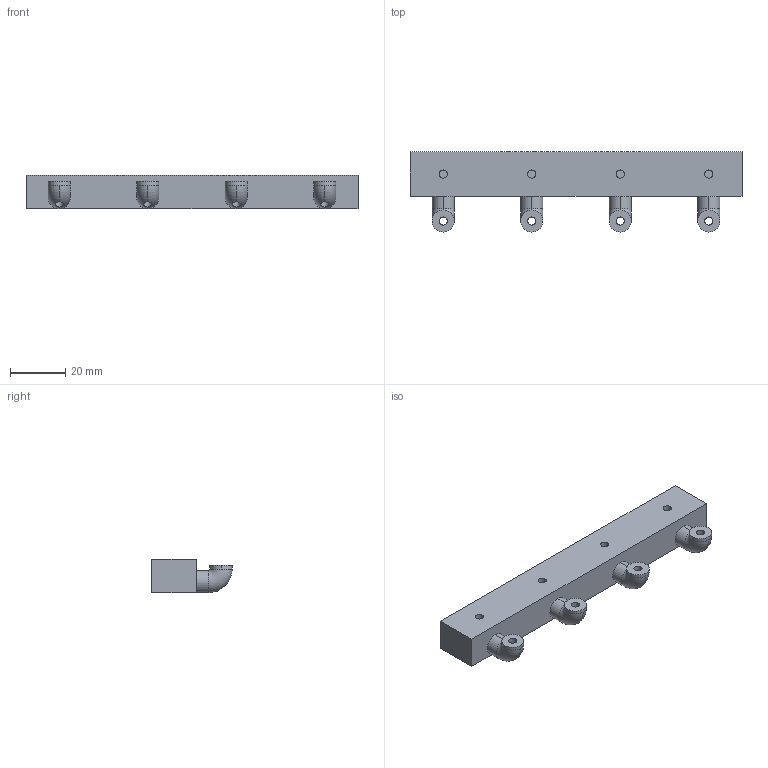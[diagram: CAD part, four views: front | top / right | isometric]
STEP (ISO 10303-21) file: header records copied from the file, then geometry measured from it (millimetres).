
FILE_DESCRIPTION (( 'STEP AP203' ), '1' );
FILE_NAME ('SF00H.STEP', '2020-02-12T07:39:24', ( 'Windows 蚚誧' ), ( '' ), 'SwSTEP 2.0', 'SolidWorks 2012', '' );
FILE_SCHEMA (( 'CONFIG_CONTROL_DESIGN' ));
Length unit declared in the file: millimetre
Products named in the file (1): SF00H
Bounding box: 120 x 29 x 12 mm (x, y, z)
Volume: 25128.4 mm3; surface area: 9011.3 mm2
Topology: 1 solids, 1 shells, 54 faces, 140 edges, 88 vertices
Faces by surface type: cylinder 32, plane 14, torus 8
Entity records: 1909 total; most frequent: CARTESIAN_POINT 459, DIRECTION 310, ORIENTED_EDGE 280, EDGE_CURVE 140, AXIS2_PLACEMENT_3D 131, VERTEX_POINT 88, CIRCLE 76, EDGE_LOOP 62
